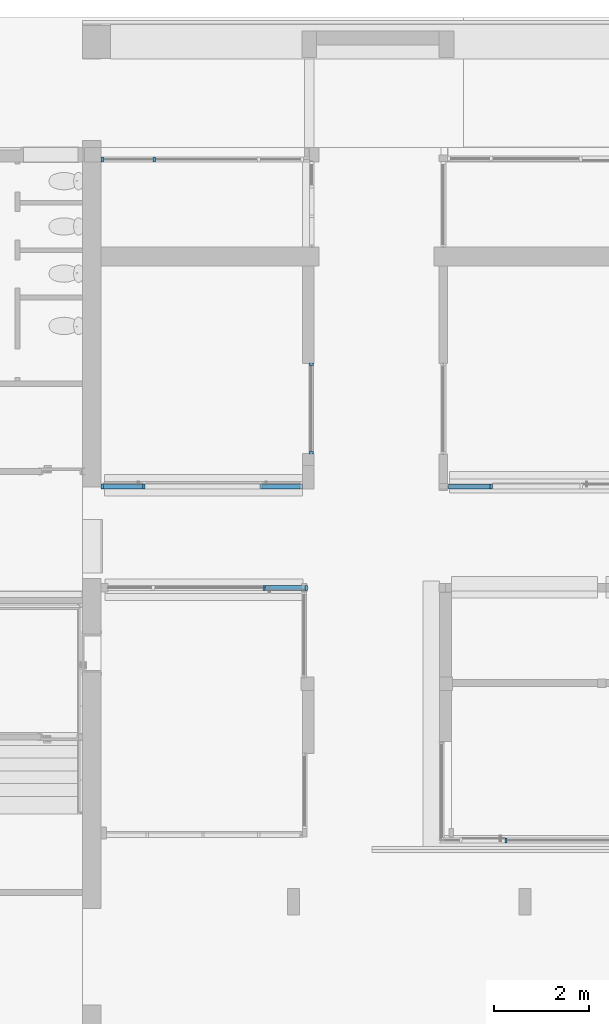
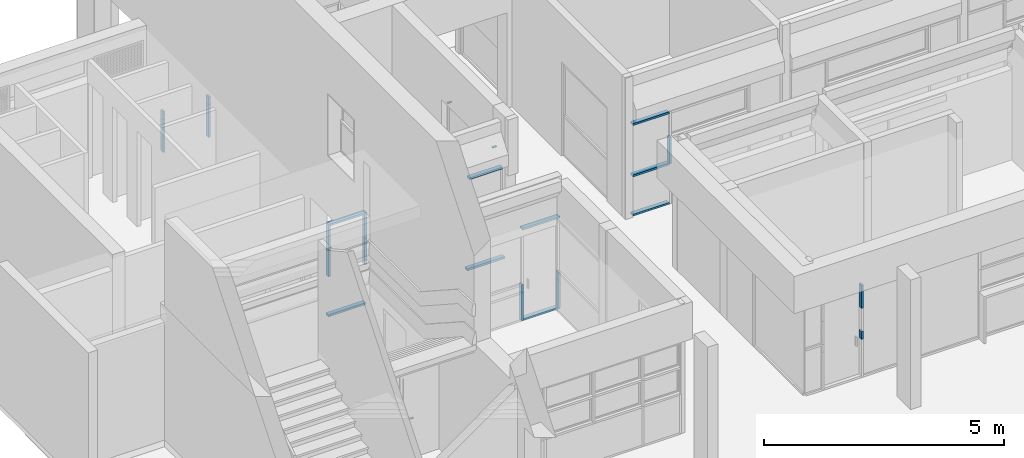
# One storey, part 17 of 117: 28 members, 6 elements without a shape of their own.
"""IFC4 building model written with IfcOpenShell, lengths in metres."""

from ifc_helpers import new_model, entity, si_unit, converted_unit, derived_unit, direction, frame, origin, place, context, subcontext, project, spatial, indexed_curve, outline, extrude, source, transform, mapped, material, type_object, type_shapes, element, aggregate, save


model = new_model("IFC4")

# Units and contexts
model_context = context("Model", 3, precision=1e-05, world=origin(), true_north=direction((6.123031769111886e-17, 1.0)))
body_context = subcontext(model_context, "Body", "Model", "MODEL_VIEW")
ifc_project = project(units=[si_unit("LENGTHUNIT", "METRE"), si_unit("AREAUNIT", "SQUARE_METRE"), si_unit("VOLUMEUNIT", "CUBIC_METRE"), converted_unit("PLANEANGLEUNIT", "DEGREE", entity("IfcRatioMeasure", 0.017453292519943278), si_unit("PLANEANGLEUNIT", "RADIAN"), dimensions=[0, 0, 0, 0, 0, 0, 0]), si_unit("MASSUNIT", "GRAM", prefix="KILO"), derived_unit("MASSDENSITYUNIT", [(si_unit("MASSUNIT", "GRAM", prefix="KILO"), 1), (si_unit("LENGTHUNIT", "METRE"), -3)]), derived_unit("MOMENTOFINERTIAUNIT", [(si_unit("LENGTHUNIT", "METRE"), 4)]), si_unit("TIMEUNIT", "SECOND"), si_unit("FREQUENCYUNIT", "HERTZ"), si_unit("THERMODYNAMICTEMPERATUREUNIT", "DEGREE_CELSIUS"), derived_unit("THERMALTRANSMITTANCEUNIT", [(si_unit("MASSUNIT", "GRAM", prefix="KILO"), 1), (si_unit("THERMODYNAMICTEMPERATUREUNIT", "KELVIN"), -1), (si_unit("TIMEUNIT", "SECOND"), -3)]), derived_unit("VOLUMETRICFLOWRATEUNIT", [(si_unit("LENGTHUNIT", "METRE"), 3), (si_unit("TIMEUNIT", "SECOND"), -1)]), derived_unit("MASSFLOWRATEUNIT", [(si_unit("MASSUNIT", "GRAM", prefix="KILO"), 1), (si_unit("TIMEUNIT", "SECOND"), -1)]), derived_unit("ROTATIONALFREQUENCYUNIT", [(si_unit("TIMEUNIT", "SECOND"), -1)]), si_unit("ELECTRICCURRENTUNIT", "AMPERE"), si_unit("ELECTRICVOLTAGEUNIT", "VOLT"), si_unit("POWERUNIT", "WATT"), si_unit("FORCEUNIT", "NEWTON", prefix="KILO"), si_unit("ILLUMINANCEUNIT", "LUX"), si_unit("LUMINOUSFLUXUNIT", "LUMEN"), si_unit("LUMINOUSINTENSITYUNIT", "CANDELA"), derived_unit("USERDEFINED", [(si_unit("MASSUNIT", "GRAM", prefix="KILO"), -1), (si_unit("LENGTHUNIT", "METRE"), -2), (si_unit("TIMEUNIT", "SECOND"), 3), (si_unit("LUMINOUSFLUXUNIT", "LUMEN"), 1)]), derived_unit("SOUNDPOWERUNIT", [(si_unit("MASSUNIT", "GRAM", prefix="KILO"), 1), (si_unit("LENGTHUNIT", "METRE"), 2), (si_unit("TIMEUNIT", "SECOND"), -3)]), derived_unit("SOUNDPRESSUREUNIT", [(si_unit("MASSUNIT", "GRAM", prefix="KILO"), 1), (si_unit("LENGTHUNIT", "METRE"), -1), (si_unit("TIMEUNIT", "SECOND"), -2)]), derived_unit("LINEARVELOCITYUNIT", [(si_unit("LENGTHUNIT", "METRE"), 1), (si_unit("TIMEUNIT", "SECOND"), -1)]), si_unit("PRESSUREUNIT", "PASCAL"), derived_unit("USERDEFINED", [(si_unit("LENGTHUNIT", "METRE"), -2), (si_unit("MASSUNIT", "GRAM", prefix="KILO"), 1), (si_unit("TIMEUNIT", "SECOND"), -2)]), derived_unit("LINEARFORCEUNIT", [(si_unit("MASSUNIT", "GRAM", prefix="KILO"), 1), (si_unit("LENGTHUNIT", "METRE"), 1), (si_unit("TIMEUNIT", "SECOND"), -2), (si_unit("LENGTHUNIT", "METRE"), -1)]), derived_unit("PLANARFORCEUNIT", [(si_unit("MASSUNIT", "GRAM", prefix="KILO"), 1), (si_unit("LENGTHUNIT", "METRE"), 1), (si_unit("TIMEUNIT", "SECOND"), -2), (si_unit("LENGTHUNIT", "METRE"), -2)])], contexts=[model_context])

# Site, building, storey
site_placement = place(None, origin())
site = spatial("IfcSite", under=ifc_project, at=site_placement, Name="Superficie", CompositionType="ELEMENT")
building_placement = place(site_placement, origin())
building = spatial("IfcBuilding", under=site, at=building_placement, CompositionType="ELEMENT")
storey_placement = place(building_placement, origin())
storey = spatial("IfcBuildingStorey", under=building, at=storey_placement, Name="Nivel 0", CompositionType="ELEMENT", Elevation=0.0)

# Curtain wall, members
curtain_wall_type = type_object("IfcCurtainWallType", Name="Muro cortina:Muro cortina - simple", PredefinedType="NOTDEFINED")
curtain_wall_1_placement = place(storey_placement, origin())
curtain_wall_1 = element("IfcCurtainWall", 1, at=curtain_wall_1_placement, inside=storey, type_object=curtain_wall_type, Name="Muro cortina:Muro cortina - simple", ObjectType="Muro cortina:Muro cortina - simple", PredefinedType="NOTDEFINED")
ifc_material = material(Name="<Unnamed>")
member_type_1 = type_object("IfcMemberType", Name="Montante rectangular:Montante rectangular - 5 x 10 cm", PredefinedType="MULLION", material=ifc_material)
shared_shape_1 = source(origin(), body_context, "Body", "SweptSolid", [
    extrude(outline(indexed_curve([(-0.05, -0.025), (0.05, -0.025), (0.05, 0.025), (-0.05, 0.025), (-0.05, -0.025)], self_intersect=False)), frame((0.0, 0.0, -0.8749999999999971), z_axis=(0.0, 0.0, 1.0), x_axis=(0.0, -1.0, 0.0)), (0.0, 0.0, 1.0), 0.874999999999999),
])
type_shapes(member_type_1, [shared_shape_1])
member_1_placement = place(curtain_wall_1_placement, frame((-14.428200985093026, 5.715829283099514, 0.019999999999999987), z_axis=(1.0, 0.0, 0.0), x_axis=(0.0, 0.0, 1.0)))
member_1 = element("IfcMember", 2, at=member_1_placement, type_object=member_type_1, material=ifc_material, Name="Montante rectangular:Montante rectangular - 5 x 10 cm", ObjectType="Montante rectangular:Montante rectangular - 5 x 10 cm", PredefinedType="MULLION", context=body_context, shape_type="MappedRepresentation", body=[
    mapped(shared_shape_1, transform((0.0, 0.0, 0.0), scale=1.0)),
])
member_2_placement = place(curtain_wall_1_placement, frame((-14.428200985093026, 5.715829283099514, 1.0200000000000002), z_axis=(1.0, 0.0, 0.0), x_axis=(0.0, 0.0, 1.0)))
member_2 = element("IfcMember", 3, at=member_2_placement, type_object=member_type_1, material=ifc_material, Name="Montante rectangular:Montante rectangular - 5 x 10 cm", ObjectType="Montante rectangular:Montante rectangular - 5 x 10 cm", PredefinedType="MULLION", context=body_context, shape_type="MappedRepresentation", body=[
    mapped(shared_shape_1, transform((0.0, 0.0, 0.0), scale=1.0)),
])

# Curtain wall, member
curtain_wall_2_placement = place(storey_placement, origin())
curtain_wall_2 = element("IfcCurtainWall", 4, at=curtain_wall_2_placement, inside=storey, type_object=curtain_wall_type, Name="Muro cortina:Muro cortina - simple", ObjectType="Muro cortina:Muro cortina - simple", PredefinedType="NOTDEFINED")
member_3_placement = place(curtain_wall_2_placement, frame((-19.17820098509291, 3.570829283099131, 0.020000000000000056), z_axis=(-1.0, 0.0, 0.0), x_axis=(0.0, 0.0, 1.0)))
member_3 = element("IfcMember", 5, at=member_3_placement, type_object=member_type_1, material=ifc_material, Name="Montante rectangular:Montante rectangular - 5 x 10 cm", ObjectType="Montante rectangular:Montante rectangular - 5 x 10 cm", PredefinedType="MULLION", context=body_context, shape_type="MappedRepresentation", body=[
    mapped(shared_shape_1, transform((0.0, 0.0, 0.0), scale=1.0)),
])

# Member
member_type_2 = type_object("IfcMemberType", Name="Montante rectangular:Montante rectangular - 5 x 10 cm", PredefinedType="MULLION", material=ifc_material)
shared_shape_2 = source(origin(), body_context, "Body", "SweptSolid", [
    extrude(outline(indexed_curve([(-0.05, -0.025), (0.05, -0.025), (0.05, 0.025), (-0.05, 0.025), (-0.05, -0.025)], self_intersect=False)), frame((-0.025, 0.0, -0.8749999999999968), z_axis=(0.0, 0.0, 1.0), x_axis=(0.0, -1.0, 0.0)), (0.0, 0.0, 1.0), 0.8749999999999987),
])
type_shapes(member_type_2, [shared_shape_2])
member_4_placement = place(curtain_wall_1_placement, frame((-14.428200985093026, 5.715829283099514, 2.35), z_axis=(1.0, 0.0, 0.0), x_axis=(0.0, 0.0, 1.0)))
member_4 = element("IfcMember", 6, at=member_4_placement, type_object=member_type_2, material=ifc_material, Name="Montante rectangular:Montante rectangular - 5 x 10 cm", ObjectType="Montante rectangular:Montante rectangular - 5 x 10 cm", PredefinedType="MULLION", context=body_context, shape_type="MappedRepresentation", body=[
    mapped(shared_shape_2, transform((0.0, 0.0, 0.0), scale=1.0)),
])

member_type_3 = type_object("IfcMemberType", Name="Montante rectangular:Montante rectangular - 5 x 10 cm", PredefinedType="MULLION", material=ifc_material)
shared_shape_3 = source(origin(), body_context, "Body", "SweptSolid", [
    extrude(outline(indexed_curve([(-0.05, -0.025), (0.05, -0.025), (0.05, 0.025), (-0.05, 0.025), (-0.05, -0.025)], self_intersect=False)), frame((0.0, 0.0, -0.6649999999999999), z_axis=(0.0, 0.0, 1.0), x_axis=(0.0, -1.0, 0.0)), (0.0, 0.0, 1.0), 0.6649999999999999),
])
type_shapes(member_type_3, [shared_shape_3])
member_5_placement = place(curtain_wall_1_placement, frame((-14.403200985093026, 5.715829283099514, 1.0200000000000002), z_axis=(0.0, 0.0, -1.0), x_axis=(1.0, 0.0, 0.0)))
member_5 = element("IfcMember", 7, at=member_5_placement, type_object=member_type_3, material=ifc_material, Name="Montante rectangular:Montante rectangular - 5 x 10 cm", ObjectType="Montante rectangular:Montante rectangular - 5 x 10 cm", PredefinedType="MULLION", context=body_context, shape_type="MappedRepresentation", body=[
    mapped(shared_shape_3, transform((0.0, 0.0, 0.0), scale=1.0)),
])

aggregate(curtain_wall_1, [member_1, member_4, member_5, member_2])

# Curtain wall, members
curtain_wall_3_placement = place(storey_placement, origin())
curtain_wall_3 = element("IfcCurtainWall", 8, at=curtain_wall_3_placement, inside=storey, type_object=curtain_wall_type, Name="Muro cortina:Muro cortina - simple", ObjectType="Muro cortina:Muro cortina - simple", PredefinedType="NOTDEFINED")
member_type_4 = type_object("IfcMemberType", Name="Montante rectangular:Montante rectangular - 5 x 10 cm", PredefinedType="MULLION", material=ifc_material)
shared_shape_4 = source(origin(), body_context, "Body", "SweptSolid", [
    extrude(outline(indexed_curve([(-0.05, -0.025), (0.05, -0.025), (0.05, 0.025), (-0.05, 0.025), (-0.05, -0.025)], self_intersect=False)), frame((0.0, 0.0, -0.6649999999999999), z_axis=(0.0, 0.0, 1.0), x_axis=(0.0, -1.0, 0.0)), (0.0, 0.0, 1.0), 0.6649999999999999),
])
type_shapes(member_type_4, [shared_shape_4])
member_6_placement = place(curtain_wall_3_placement, frame((-21.743200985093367, 5.715829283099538, 1.6849999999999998), z_axis=(0.0, 0.0, -1.0), x_axis=(1.0, 0.0, 0.0)))
member_6 = element("IfcMember", 9, at=member_6_placement, type_object=member_type_4, material=ifc_material, Name="Montante rectangular:Montante rectangular - 5 x 10 cm", ObjectType="Montante rectangular:Montante rectangular - 5 x 10 cm", PredefinedType="MULLION", context=body_context, shape_type="MappedRepresentation", body=[
    mapped(shared_shape_4, transform((0.0, 0.0, 0.0), scale=1.0)),
])
member_type_5 = type_object("IfcMemberType", Name="Montante rectangular:Montante rectangular - 5 x 10 cm", PredefinedType="MULLION", material=ifc_material)
shared_shape_5 = source(origin(), body_context, "Body", "SweptSolid", [
    extrude(outline(indexed_curve([(-0.05, -0.025), (0.05, -0.025), (0.05, 0.025), (-0.05, 0.025), (-0.05, -0.025)], self_intersect=False)), frame((0.0, 0.0, -0.6649999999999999), z_axis=(0.0, 0.0, 1.0), x_axis=(0.0, -1.0, 0.0)), (0.0, 0.0, 1.0), 0.6649999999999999),
])
type_shapes(member_type_5, [shared_shape_5])
member_7_placement = place(curtain_wall_3_placement, frame((-21.743200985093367, 5.715829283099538, 1.0199999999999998), z_axis=(0.0, 0.0, -1.0), x_axis=(1.0, 0.0, 0.0)))
member_7 = element("IfcMember", 10, at=member_7_placement, type_object=member_type_5, material=ifc_material, Name="Montante rectangular:Montante rectangular - 5 x 10 cm", ObjectType="Montante rectangular:Montante rectangular - 5 x 10 cm", PredefinedType="MULLION", context=body_context, shape_type="MappedRepresentation", body=[
    mapped(shared_shape_5, transform((0.0, 0.0, 0.0), scale=1.0)),
])
member_type_6 = type_object("IfcMemberType", Name="Montante rectangular:Montante rectangular - 5 x 10 cm", PredefinedType="MULLION", material=ifc_material)
shared_shape_6 = source(origin(), body_context, "Body", "SweptSolid", [
    extrude(outline(indexed_curve([(-0.05, -0.025), (0.05, -0.025), (0.05, 0.025), (-0.05, 0.025), (-0.05, -0.025)], self_intersect=False)), frame((-0.025, 0.0, -0.8000000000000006), z_axis=(0.0, 0.0, 1.0), x_axis=(0.0, -1.0, 0.0)), (0.0, 0.0, 1.0), 0.7999999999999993),
])
type_shapes(member_type_6, [shared_shape_6])
member_8_placement = place(curtain_wall_3_placement, frame((-18.44320098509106, 5.715829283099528, 2.35), z_axis=(1.0, 0.0, 0.0), x_axis=(0.0, 0.0, 1.0)))
member_8 = element("IfcMember", 11, at=member_8_placement, type_object=member_type_6, material=ifc_material, Name="Montante rectangular:Montante rectangular - 5 x 10 cm", ObjectType="Montante rectangular:Montante rectangular - 5 x 10 cm", PredefinedType="MULLION", context=body_context, shape_type="MappedRepresentation", body=[
    mapped(shared_shape_6, transform((0.0, 0.0, 0.0), scale=1.0)),
])
member_type_7 = type_object("IfcMemberType", Name="Montante rectangular:Montante rectangular - 5 x 10 cm", PredefinedType="MULLION", material=ifc_material)
shared_shape_7 = source(origin(), body_context, "Body", "SweptSolid", [
    extrude(outline(indexed_curve([(-0.05, -0.025), (0.05, -0.025), (0.05, 0.025), (-0.05, 0.025), (-0.05, -0.025)], self_intersect=False)), frame((-0.025, 0.0, -0.8249999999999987), z_axis=(0.0, 0.0, 1.0), x_axis=(0.0, -1.0, 0.0)), (0.0, 0.0, 1.0), 0.824999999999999),
])
type_shapes(member_type_7, [shared_shape_7])
member_9_placement = place(curtain_wall_3_placement, frame((-21.768200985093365, 5.715829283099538, 2.35), z_axis=(1.0, 0.0, 0.0), x_axis=(0.0, 0.0, 1.0)))
member_9 = element("IfcMember", 12, at=member_9_placement, type_object=member_type_7, material=ifc_material, Name="Montante rectangular:Montante rectangular - 5 x 10 cm", ObjectType="Montante rectangular:Montante rectangular - 5 x 10 cm", PredefinedType="MULLION", context=body_context, shape_type="MappedRepresentation", body=[
    mapped(shared_shape_7, transform((0.0, 0.0, 0.0), scale=1.0)),
])
member_type_8 = type_object("IfcMemberType", Name="Montante rectangular:Montante rectangular - 5 x 10 cm", PredefinedType="MULLION", material=ifc_material)
shared_shape_8 = source(origin(), body_context, "Body", "SweptSolid", [
    extrude(outline(indexed_curve([(-0.05, -0.025), (0.05, -0.025), (0.05, 0.025), (-0.05, 0.025), (-0.05, -0.025)], self_intersect=False)), frame((0.0, 0.0, -0.8999999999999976), z_axis=(0.0, 0.0, 1.0), x_axis=(0.0, -1.0, 0.0)), (0.0, 0.0, 1.0), 0.8999999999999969),
])
type_shapes(member_type_8, [shared_shape_8])
member_10_placement = place(curtain_wall_3_placement, frame((-18.393200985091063, 5.715829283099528, 0.019999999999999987), z_axis=(1.0, 0.0, 0.0), x_axis=(0.0, 0.0, 1.0)))
member_10 = element("IfcMember", 13, at=member_10_placement, type_object=member_type_8, material=ifc_material, Name="Montante rectangular:Montante rectangular - 5 x 10 cm", ObjectType="Montante rectangular:Montante rectangular - 5 x 10 cm", PredefinedType="MULLION", context=body_context, shape_type="MappedRepresentation", body=[
    mapped(shared_shape_8, transform((0.0, 0.0, 0.0), scale=1.0)),
])
member_type_9 = type_object("IfcMemberType", Name="Montante rectangular:Montante rectangular - 5 x 10 cm", PredefinedType="MULLION", material=ifc_material)
shared_shape_9 = source(origin(), body_context, "Body", "SweptSolid", [
    extrude(outline(indexed_curve([(-0.05, -0.025), (0.05, -0.025), (0.05, 0.025), (-0.05, 0.025), (-0.05, -0.025)], self_intersect=False)), frame((-0.025, 0.0, -0.6649999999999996), z_axis=(0.0, 0.0, 1.0), x_axis=(0.0, -1.0, 0.0)), (0.0, 0.0, 1.0), 0.6649999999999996),
])
type_shapes(member_type_9, [shared_shape_9])
member_11_placement = place(curtain_wall_3_placement, frame((-22.643200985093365, 5.715829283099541, 1.6849999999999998), z_axis=(0.0, 0.0, 1.0), x_axis=(-1.0, 0.0, 0.0)))
member_11 = element("IfcMember", 14, at=member_11_placement, type_object=member_type_9, material=ifc_material, Name="Montante rectangular:Montante rectangular - 5 x 10 cm", ObjectType="Montante rectangular:Montante rectangular - 5 x 10 cm", PredefinedType="MULLION", context=body_context, shape_type="MappedRepresentation", body=[
    mapped(shared_shape_9, transform((0.0, 0.0, 0.0), scale=1.0)),
])
member_type_10 = type_object("IfcMemberType", Name="Montante rectangular:Montante rectangular - 5 x 10 cm", PredefinedType="MULLION", material=ifc_material)
shared_shape_10 = source(origin(), body_context, "Body", "SweptSolid", [
    extrude(outline(indexed_curve([(-0.05, -0.025), (0.05, -0.025), (0.05, 0.025), (-0.05, 0.025), (-0.05, -0.025)], self_intersect=False)), frame((-0.025, 0.0, -0.6650000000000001), z_axis=(0.0, 0.0, 1.0), x_axis=(0.0, -1.0, 0.0)), (0.0, 0.0, 1.0), 0.6650000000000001),
])
type_shapes(member_type_10, [shared_shape_10])
member_12_placement = place(curtain_wall_3_placement, frame((-22.643200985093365, 5.715829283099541, 2.35), z_axis=(0.0, 0.0, 1.0), x_axis=(-1.0, 0.0, 0.0)))
member_12 = element("IfcMember", 15, at=member_12_placement, type_object=member_type_10, material=ifc_material, Name="Montante rectangular:Montante rectangular - 5 x 10 cm", ObjectType="Montante rectangular:Montante rectangular - 5 x 10 cm", PredefinedType="MULLION", context=body_context, shape_type="MappedRepresentation", body=[
    mapped(shared_shape_10, transform((0.0, 0.0, 0.0), scale=1.0)),
])
member_type_11 = type_object("IfcMemberType", Name="Montante rectangular:Montante rectangular - 5 x 10 cm", PredefinedType="MULLION", material=ifc_material)
shared_shape_11 = source(origin(), body_context, "Body", "SweptSolid", [
    extrude(outline(indexed_curve([(-0.05, -0.025), (0.05, -0.025), (0.05, 0.025), (-0.05, 0.025), (-0.05, -0.025)], self_intersect=False)), frame((0.0, 0.0, -0.8250000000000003), z_axis=(0.0, 0.0, 1.0), x_axis=(0.0, -1.0, 0.0)), (0.0, 0.0, 1.0), 0.8249999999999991),
])
type_shapes(member_type_11, [shared_shape_11])
member_13_placement = place(curtain_wall_3_placement, frame((-21.768200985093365, 5.715829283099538, 0.019999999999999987), z_axis=(1.0, 0.0, 0.0), x_axis=(0.0, 0.0, 1.0)))
member_13 = element("IfcMember", 16, at=member_13_placement, type_object=member_type_11, material=ifc_material, Name="Montante rectangular:Montante rectangular - 5 x 10 cm", ObjectType="Montante rectangular:Montante rectangular - 5 x 10 cm", PredefinedType="MULLION", context=body_context, shape_type="MappedRepresentation", body=[
    mapped(shared_shape_11, transform((0.0, 0.0, 0.0), scale=1.0)),
])
member_type_12 = type_object("IfcMemberType", Name="Montante rectangular:Montante rectangular - 5 x 10 cm", PredefinedType="MULLION", material=ifc_material)
shared_shape_12 = source(origin(), body_context, "Body", "SweptSolid", [
    extrude(outline(indexed_curve([(-0.05, -0.025), (0.05, -0.025), (0.05, 0.025), (-0.05, 0.025), (-0.05, -0.025)], self_intersect=False)), frame((-0.025, 0.0, -0.8999999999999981), z_axis=(0.0, 0.0, 1.0), x_axis=(0.0, -1.0, 0.0)), (0.0, 0.0, 1.0), 0.899999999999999),
])
type_shapes(member_type_12, [shared_shape_12])
member_14_placement = place(curtain_wall_3_placement, frame((-19.29320098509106, 5.71582928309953, 0.0), z_axis=(-1.0, 0.0, 0.0), x_axis=(0.0, 0.0, -1.0)))
member_14 = element("IfcMember", 17, at=member_14_placement, type_object=member_type_12, material=ifc_material, Name="Montante rectangular:Montante rectangular - 5 x 10 cm", ObjectType="Montante rectangular:Montante rectangular - 5 x 10 cm", PredefinedType="MULLION", context=body_context, shape_type="MappedRepresentation", body=[
    mapped(shared_shape_12, transform((0.0, 0.0, 0.0), scale=1.0)),
])
member_type_13 = type_object("IfcMemberType", Name="Montante rectangular:Montante rectangular - 5 x 10 cm", PredefinedType="MULLION", material=ifc_material)
shared_shape_13 = source(origin(), body_context, "Body", "SweptSolid", [
    extrude(outline(indexed_curve([(-0.05, -0.025), (0.05, -0.025), (0.05, 0.025), (-0.05, 0.025), (-0.05, -0.025)], self_intersect=False)), frame((-0.025, 0.0, -0.9), z_axis=(0.0, 0.0, 1.0), x_axis=(0.0, -1.0, 0.0)), (0.0, 0.0, 1.0), 0.899999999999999),
])
type_shapes(member_type_13, [shared_shape_13])
member_15_placement = place(curtain_wall_3_placement, frame((-22.643200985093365, 5.715829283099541, 0.0), z_axis=(-1.0, 0.0, 0.0), x_axis=(0.0, 0.0, -1.0)))
member_15 = element("IfcMember", 18, at=member_15_placement, type_object=member_type_13, material=ifc_material, Name="Montante rectangular:Montante rectangular - 5 x 10 cm", ObjectType="Montante rectangular:Montante rectangular - 5 x 10 cm", PredefinedType="MULLION", context=body_context, shape_type="MappedRepresentation", body=[
    mapped(shared_shape_13, transform((0.0, 0.0, 0.0), scale=1.0)),
])
aggregate(curtain_wall_3, [member_8, member_9, member_10, member_11, member_12, member_13, member_14, member_15, member_6, member_7])

curtain_wall_4_placement = place(storey_placement, origin())
curtain_wall_4 = element("IfcCurtainWall", 19, at=curtain_wall_4_placement, inside=storey, type_object=curtain_wall_type, Name="Muro cortina:Muro cortina - simple", ObjectType="Muro cortina:Muro cortina - simple", PredefinedType="NOTDEFINED")
member_type_14 = type_object("IfcMemberType", Name="Montante rectangular:Montante rectangular - 5 x 10 cm", PredefinedType="MULLION", material=ifc_material)
shared_shape_14 = source(origin(), body_context, "Body", "SweptSolid", [
    extrude(outline(indexed_curve([(-0.05, -0.025), (0.05, -0.025), (0.05, 0.025), (-0.05, 0.025), (-0.05, -0.025)], self_intersect=False)), frame((0.0, 0.0, -0.020000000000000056), z_axis=(0.0, 0.0, 1.0), x_axis=(0.0, -1.0, 0.0)), (0.0, 0.0, 1.0), 0.020000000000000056),
])
type_shapes(member_type_14, [shared_shape_14])
member_16_placement = place(curtain_wall_4_placement, frame((-18.208200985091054, 8.295829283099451, 2.3099999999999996), z_axis=(0.0, 0.0, -1.0), x_axis=(0.0, 1.0, 0.0)))
member_16 = element("IfcMember", 20, at=member_16_placement, type_object=member_type_14, material=ifc_material, Name="Montante rectangular:Montante rectangular - 5 x 10 cm", ObjectType="Montante rectangular:Montante rectangular - 5 x 10 cm", PredefinedType="MULLION", context=body_context, shape_type="MappedRepresentation", body=[
    mapped(shared_shape_14, transform((0.0, 0.0, 0.0), scale=1.0)),
])
member_17_placement = place(curtain_wall_4_placement, frame((-18.208200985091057, 6.429744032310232, 2.3099999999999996), z_axis=(0.0, 0.0, -1.0), x_axis=(0.0, 1.0, 0.0)))
member_17 = element("IfcMember", 21, at=member_17_placement, type_object=member_type_14, material=ifc_material, Name="Montante rectangular:Montante rectangular - 5 x 10 cm", ObjectType="Montante rectangular:Montante rectangular - 5 x 10 cm", PredefinedType="MULLION", context=body_context, shape_type="MappedRepresentation", body=[
    mapped(shared_shape_14, transform((0.0, 0.0, 0.0), scale=1.0)),
])
aggregate(curtain_wall_4, [member_16, member_17])

# Member
member_type_15 = type_object("IfcMemberType", Name="Montante rectangular:Montante rectangular - 5 x 10 cm", PredefinedType="MULLION", material=ifc_material)
shared_shape_15 = source(origin(), body_context, "Body", "SweptSolid", [
    extrude(outline(indexed_curve([(-0.05, -0.025), (0.05, -0.025), (0.05, 0.025), (-0.05, 0.025), (-0.05, -0.025)], self_intersect=False)), frame((-0.025, 0.0, -0.8999999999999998), z_axis=(0.0, 0.0, 1.0), x_axis=(0.0, -1.0, 0.0)), (0.0, 0.0, 1.0), 0.8999999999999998),
])
type_shapes(member_type_15, [shared_shape_15])
member_18_placement = place(curtain_wall_2_placement, frame((-19.203200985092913, 3.570829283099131, 2.35), z_axis=(-1.0, 0.0, 0.0), x_axis=(0.0, 0.0, 1.0)))
member_18 = element("IfcMember", 22, at=member_18_placement, type_object=member_type_15, material=ifc_material, Name="Montante rectangular:Montante rectangular - 5 x 10 cm", ObjectType="Montante rectangular:Montante rectangular - 5 x 10 cm", PredefinedType="MULLION", context=body_context, shape_type="MappedRepresentation", body=[
    mapped(shared_shape_15, transform((0.0, 0.0, 0.0), scale=1.0)),
])

# Curtain wall, member
curtain_wall_5_placement = place(storey_placement, origin())
curtain_wall_5 = element("IfcCurtainWall", 23, at=curtain_wall_5_placement, inside=storey, type_object=curtain_wall_type, Name="Muro cortina:Muro cortina - simple", ObjectType="Muro cortina:Muro cortina - simple", PredefinedType="NOTDEFINED")
member_type_16 = type_object("IfcMemberType", Name="Montante rectangular:Montante rectangular - 5 x 10 cm", PredefinedType="MULLION", material=ifc_material)
shared_shape_16 = source(origin(), body_context, "Body", "SweptSolid", [
    extrude(outline(indexed_curve([(-0.05, -0.025), (0.05, -0.025), (0.05, 0.025), (-0.05, 0.025), (-0.05, -0.025)], self_intersect=False)), frame((0.0, 0.0, -0.19999999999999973), z_axis=(0.0, 0.0, 1.0), x_axis=(0.0, -1.0, 0.0)), (0.0, 0.0, 1.0), 0.19999999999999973),
])
type_shapes(member_type_16, [shared_shape_16])
member_19_placement = place(curtain_wall_5_placement, frame((-21.523200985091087, 12.620829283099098, 0.8299999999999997), z_axis=(0.0, 0.0, -1.0), x_axis=(-1.0, 0.0, 0.0)))
member_19 = element("IfcMember", 24, at=member_19_placement, type_object=member_type_16, material=ifc_material, Name="Montante rectangular:Montante rectangular - 5 x 10 cm", ObjectType="Montante rectangular:Montante rectangular - 5 x 10 cm", PredefinedType="MULLION", context=body_context, shape_type="MappedRepresentation", body=[
    mapped(shared_shape_16, transform((0.0, 0.0, 0.0), scale=1.0)),
])

# Member
member_20_placement = place(curtain_wall_2_placement, frame((-19.203200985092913, 3.570829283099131, 0.72), z_axis=(0.0, 0.0, -1.0), x_axis=(-1.0, 0.0, 0.0)))
member_20 = element("IfcMember", 25, at=member_20_placement, type_object=member_type_16, material=ifc_material, Name="Montante rectangular:Montante rectangular - 5 x 10 cm", ObjectType="Montante rectangular:Montante rectangular - 5 x 10 cm", PredefinedType="MULLION", context=body_context, shape_type="MappedRepresentation", body=[
    mapped(shared_shape_16, transform((0.0, 0.0, 0.0), scale=1.0)),
])

member_type_17 = type_object("IfcMemberType", Name="Montante rectangular:Montante rectangular - 5 x 10 cm", PredefinedType="MULLION", material=ifc_material)
shared_shape_17 = source(origin(), body_context, "Body", "SweptSolid", [
    extrude(outline(indexed_curve([(-0.05, -0.025), (0.05, -0.025), (0.05, 0.025), (-0.05, 0.025), (-0.05, -0.025)], self_intersect=False)), frame((0.0, 0.0, -0.8350000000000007), z_axis=(0.0, 0.0, 1.0), x_axis=(0.0, -1.0, 0.0)), (0.0, 0.0, 1.0), 0.8350000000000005),
])
type_shapes(member_type_17, [shared_shape_17])
member_21_placement = place(curtain_wall_5_placement, frame((-21.523200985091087, 12.620829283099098, -0.005000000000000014), z_axis=(0.0, 0.0, -1.0), x_axis=(-1.0, 0.0, 0.0)))
member_21 = element("IfcMember", 26, at=member_21_placement, type_object=member_type_17, material=ifc_material, Name="Montante rectangular:Montante rectangular - 5 x 10 cm", ObjectType="Montante rectangular:Montante rectangular - 5 x 10 cm", PredefinedType="MULLION", context=body_context, shape_type="MappedRepresentation", body=[
    mapped(shared_shape_17, transform((0.0, 0.0, 0.0), scale=1.0)),
])

member_type_18 = type_object("IfcMemberType", Name="Montante rectangular:Montante rectangular - 5 x 10 cm", PredefinedType="MULLION", material=ifc_material)
shared_shape_18 = source(origin(), body_context, "Body", "SweptSolid", [
    extrude(outline(indexed_curve([(-0.05, -0.025), (0.05, -0.025), (0.05, 0.025), (-0.05, 0.025), (-0.05, -0.025)], self_intersect=False)), frame((-0.025, 0.0, -0.2), z_axis=(0.0, 0.0, 1.0), x_axis=(0.0, -1.0, 0.0)), (0.0, 0.0, 1.0), 0.2),
])
type_shapes(member_type_18, [shared_shape_18])
member_22_placement = place(curtain_wall_5_placement, frame((-22.643200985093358, 12.6208292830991, 0.8299999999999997), z_axis=(0.0, 0.0, -1.0), x_axis=(-1.0, 0.0, 0.0)))
member_22 = element("IfcMember", 27, at=member_22_placement, type_object=member_type_18, material=ifc_material, Name="Montante rectangular:Montante rectangular - 5 x 10 cm", ObjectType="Montante rectangular:Montante rectangular - 5 x 10 cm", PredefinedType="MULLION", context=body_context, shape_type="MappedRepresentation", body=[
    mapped(shared_shape_18, transform((0.0, 0.0, 0.0), scale=1.0)),
])

member_type_19 = type_object("IfcMemberType", Name="Montante rectangular:Montante rectangular - 5 x 10 cm", PredefinedType="MULLION", material=ifc_material)
shared_shape_19 = source(origin(), body_context, "Body", "SweptSolid", [
    extrude(outline(indexed_curve([(-0.05, -0.025), (0.05, -0.025), (0.05, 0.025), (-0.05, 0.025), (-0.05, -0.025)], self_intersect=False)), frame((-0.025, 0.0, -0.8349999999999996), z_axis=(0.0, 0.0, 1.0), x_axis=(0.0, -1.0, 0.0)), (0.0, 0.0, 1.0), 0.8349999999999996),
])
type_shapes(member_type_19, [shared_shape_19])
member_23_placement = place(curtain_wall_5_placement, frame((-22.643200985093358, 12.6208292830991, -0.005000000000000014), z_axis=(0.0, 0.0, -1.0), x_axis=(-1.0, 0.0, 0.0)))
member_23 = element("IfcMember", 28, at=member_23_placement, type_object=member_type_19, material=ifc_material, Name="Montante rectangular:Montante rectangular - 5 x 10 cm", ObjectType="Montante rectangular:Montante rectangular - 5 x 10 cm", PredefinedType="MULLION", context=body_context, shape_type="MappedRepresentation", body=[
    mapped(shared_shape_19, transform((0.0, 0.0, 0.0), scale=1.0)),
])

aggregate(curtain_wall_5, [member_19, member_21, member_22, member_23])

# Curtain wall, member
curtain_wall_6_placement = place(storey_placement, origin())
curtain_wall_6 = element("IfcCurtainWall", 29, at=curtain_wall_6_placement, inside=storey, type_object=curtain_wall_type, Name="Muro cortina:Muro cortina - simple", ObjectType="Muro cortina:Muro cortina - simple", PredefinedType="NOTDEFINED")
member_type_20 = type_object("IfcMemberType", Name="Montante rectangular:Montante rectangular - 5 x 10 cm", PredefinedType="MULLION", material=ifc_material)
shared_shape_20 = source(origin(), body_context, "Body", "SweptSolid", [
    extrude(outline(indexed_curve([(-0.05, -0.025), (0.05, -0.025), (0.05, 0.025), (-0.05, 0.025), (-0.05, -0.025)], self_intersect=False)), frame((0.0, 0.0, -0.2), z_axis=(0.0, 0.0, 1.0), x_axis=(0.0, -1.0, 0.0)), (0.0, 0.0, 1.0), 0.2),
])
type_shapes(member_type_20, [shared_shape_20])
member_24_placement = place(curtain_wall_6_placement, frame((-14.093200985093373, -1.7641707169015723, 0.9750000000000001), z_axis=(0.0, 0.0, -1.0), x_axis=(1.0, 0.0, 0.0)))
member_24 = element("IfcMember", 30, at=member_24_placement, type_object=member_type_20, material=ifc_material, Name="Montante rectangular:Montante rectangular - 5 x 10 cm", ObjectType="Montante rectangular:Montante rectangular - 5 x 10 cm", PredefinedType="MULLION", context=body_context, shape_type="MappedRepresentation", body=[
    mapped(shared_shape_20, transform((0.0, 0.0, 0.0), scale=1.0)),
])

# Member
member_type_21 = type_object("IfcMemberType", Name="Montante rectangular:Montante rectangular - 5 x 10 cm", PredefinedType="MULLION", material=ifc_material)
shared_shape_21 = source(origin(), body_context, "Body", "SweptSolid", [
    extrude(outline(indexed_curve([(-0.05, -0.025), (0.05, -0.025), (0.05, 0.025), (-0.05, 0.025), (-0.05, -0.025)], self_intersect=False)), frame((0.0, 0.0, -0.7249999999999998), z_axis=(0.0, 0.0, 1.0), x_axis=(0.0, -1.0, 0.0)), (0.0, 0.0, 1.0), 0.7249999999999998),
])
type_shapes(member_type_21, [shared_shape_21])
member_25_placement = place(curtain_wall_2_placement, frame((-19.203200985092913, 3.570829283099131, -0.004999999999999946), z_axis=(0.0, 0.0, -1.0), x_axis=(-1.0, 0.0, 0.0)))
member_25 = element("IfcMember", 31, at=member_25_placement, type_object=member_type_21, material=ifc_material, Name="Montante rectangular:Montante rectangular - 5 x 10 cm", ObjectType="Montante rectangular:Montante rectangular - 5 x 10 cm", PredefinedType="MULLION", context=body_context, shape_type="MappedRepresentation", body=[
    mapped(shared_shape_21, transform((0.0, 0.0, 0.0), scale=1.0)),
])

member_type_22 = type_object("IfcMemberType", Name="Montante rectangular:Montante rectangular - 5 x 10 cm", PredefinedType="MULLION", material=ifc_material)
shared_shape_22 = source(origin(), body_context, "Body", "SweptSolid", [
    extrude(outline(indexed_curve([(-0.05, -0.025), (0.05, -0.025), (0.05, 0.025), (-0.05, 0.025), (-0.05, -0.025)], self_intersect=False)), frame((-0.025, 0.0, -0.7000000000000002), z_axis=(0.0, 0.0, 1.0), x_axis=(0.0, -1.0, 0.0)), (0.0, 0.0, 1.0), 0.7000000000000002),
])
type_shapes(member_type_22, [shared_shape_22])
member_26_placement = place(curtain_wall_2_placement, frame((-18.283200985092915, 3.570829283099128, 0.7200000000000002)))
member_26 = element("IfcMember", 32, at=member_26_placement, type_object=member_type_22, material=ifc_material, Name="Montante rectangular:Montante rectangular - 5 x 10 cm", ObjectType="Montante rectangular:Montante rectangular - 5 x 10 cm", PredefinedType="MULLION", context=body_context, shape_type="MappedRepresentation", body=[
    mapped(shared_shape_22, transform((0.0, 0.0, 0.0), scale=1.0)),
])

member_type_23 = type_object("IfcMemberType", Name="Montante rectangular:Montante rectangular - 5 x 10 cm", PredefinedType="MULLION", material=ifc_material)
shared_shape_23 = source(origin(), body_context, "Body", "SweptSolid", [
    extrude(outline(indexed_curve([(-0.05, -0.025), (0.05, -0.025), (0.05, 0.025), (-0.05, 0.025), (-0.05, -0.025)], self_intersect=False)), frame((-0.025, 0.0, -0.19999999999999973), z_axis=(0.0, 0.0, 1.0), x_axis=(0.0, -1.0, 0.0)), (0.0, 0.0, 1.0), 0.19999999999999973),
])
type_shapes(member_type_23, [shared_shape_23])
member_27_placement = place(curtain_wall_2_placement, frame((-18.283200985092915, 3.570829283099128, 0.92)))
member_27 = element("IfcMember", 33, at=member_27_placement, type_object=member_type_23, material=ifc_material, Name="Montante rectangular:Montante rectangular - 5 x 10 cm", ObjectType="Montante rectangular:Montante rectangular - 5 x 10 cm", PredefinedType="MULLION", context=body_context, shape_type="MappedRepresentation", body=[
    mapped(shared_shape_23, transform((0.0, 0.0, 0.0), scale=1.0)),
])

aggregate(curtain_wall_2, [member_20, member_25, member_3, member_18, member_26, member_27])

member_type_24 = type_object("IfcMemberType", Name="Montante rectangular:Montante rectangular - 5 x 10 cm", PredefinedType="MULLION", material=ifc_material)
shared_shape_24 = source(origin(), body_context, "Body", "SweptSolid", [
    extrude(outline(indexed_curve([(-0.05, -0.025), (0.05, -0.025), (0.05, 0.025), (-0.05, 0.025), (-0.05, -0.025)], self_intersect=False)), frame((0.0, 0.0, -0.5875000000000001), z_axis=(0.0, 0.0, 1.0), x_axis=(0.0, -1.0, 0.0)), (0.0, 0.0, 1.0), 0.5875000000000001),
])
type_shapes(member_type_24, [shared_shape_24])
member_28_placement = place(curtain_wall_6_placement, frame((-14.093200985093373, -1.7641707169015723, 1.7625), z_axis=(0.0, 0.0, -1.0), x_axis=(1.0, 0.0, 0.0)))
member_28 = element("IfcMember", 34, at=member_28_placement, type_object=member_type_24, material=ifc_material, Name="Montante rectangular:Montante rectangular - 5 x 10 cm", ObjectType="Montante rectangular:Montante rectangular - 5 x 10 cm", PredefinedType="MULLION", context=body_context, shape_type="MappedRepresentation", body=[
    mapped(shared_shape_24, transform((0.0, 0.0, 0.0), scale=1.0)),
])

aggregate(curtain_wall_6, [member_24, member_28])

save(model, "model.ifc")
